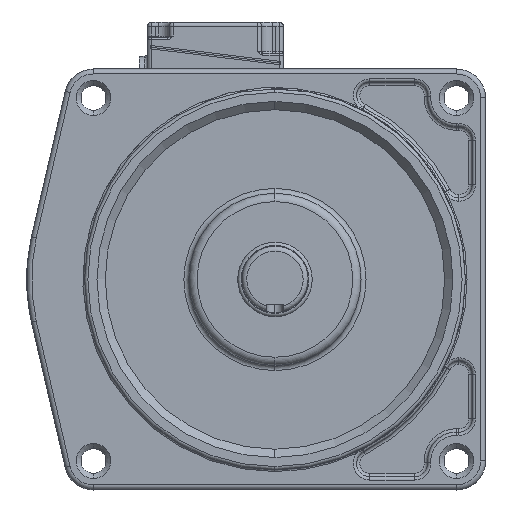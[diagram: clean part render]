
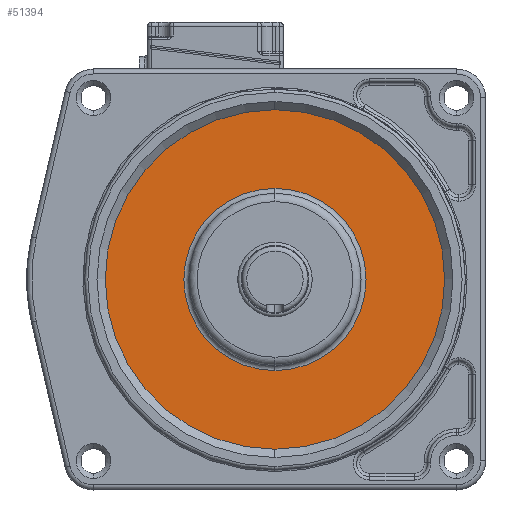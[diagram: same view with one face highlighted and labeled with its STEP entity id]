
A CAD part, top view. The second image highlights one B-rep face of the part: STEP entity #51394.
In plain terms, the highlighted planar face has unit normal (0, 0, 1).
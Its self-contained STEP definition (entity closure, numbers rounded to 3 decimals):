
#51318=CARTESIAN_POINT('',(6215.338,-1618.222,262.896));
#51319=VERTEX_POINT('',#51318);
#51320=CARTESIAN_POINT('',(6215.338,-1508.222,262.896));
#51321=VERTEX_POINT('',#51320);
#51322=CARTESIAN_POINT('',(6215.338,-1563.222,262.896));
#51323=DIRECTION('',(0.,0.,1.));
#51324=DIRECTION('',(0.,-1.,0.));
#51325=AXIS2_PLACEMENT_3D('',#51322,#51323,#51324);
#51326=CIRCLE('',#51325,55.);
#51327=EDGE_CURVE('',#51319,#51321,#51326,.T.);
#51352=CARTESIAN_POINT('',(6215.338,-1563.222,262.896));
#51353=DIRECTION('',(0.,-0.,1.));
#51354=DIRECTION('',(0.,1.,0.));
#51355=AXIS2_PLACEMENT_3D('',#51352,#51353,#51354);
#51356=CIRCLE('',#51355,55.);
#51357=EDGE_CURVE('',#51321,#51319,#51356,.T.);
#51365=CARTESIAN_POINT('',(6108.65,-1456.622,262.896));
#51366=DIRECTION('',(0.,0.,1.));
#51367=DIRECTION('',(0.,-1.,0.));
#51368=AXIS2_PLACEMENT_3D('',#51365,#51366,#51367);
#51369=PLANE('',#51368);
#51370=CARTESIAN_POINT('',(6215.338,-1665.722,262.896));
#51371=VERTEX_POINT('',#51370);
#51372=CARTESIAN_POINT('',(6215.338,-1460.722,262.896));
#51373=VERTEX_POINT('',#51372);
#51374=CARTESIAN_POINT('',(6215.338,-1563.222,262.896));
#51375=DIRECTION('',(0.,0.,-1.));
#51376=DIRECTION('',(0.,-1.,0.));
#51377=AXIS2_PLACEMENT_3D('',#51374,#51375,#51376);
#51378=CIRCLE('',#51377,102.5);
#51379=EDGE_CURVE('',#51371,#51373,#51378,.T.);
#51380=ORIENTED_EDGE('',*,*,#51379,.F.);
#51381=CARTESIAN_POINT('',(6215.338,-1563.222,262.896));
#51382=DIRECTION('',(0.,0.,-1.));
#51383=DIRECTION('',(0.,1.,0.));
#51384=AXIS2_PLACEMENT_3D('',#51381,#51382,#51383);
#51385=CIRCLE('',#51384,102.5);
#51386=EDGE_CURVE('',#51373,#51371,#51385,.T.);
#51387=ORIENTED_EDGE('',*,*,#51386,.F.);
#51388=EDGE_LOOP('',(#51380,#51387));
#51389=FACE_BOUND('',#51388,.T.);
#51390=ORIENTED_EDGE('',*,*,#51357,.F.);
#51391=ORIENTED_EDGE('',*,*,#51327,.F.);
#51392=EDGE_LOOP('',(#51390,#51391));
#51393=FACE_BOUND('',#51392,.T.);
#51394=ADVANCED_FACE('',(#51389,#51393),#51369,.T.);
